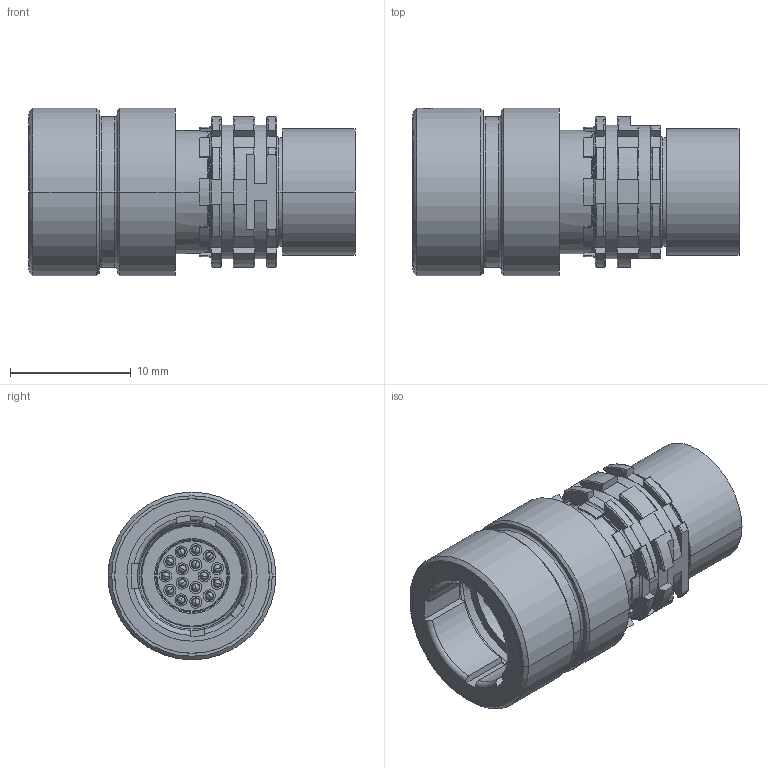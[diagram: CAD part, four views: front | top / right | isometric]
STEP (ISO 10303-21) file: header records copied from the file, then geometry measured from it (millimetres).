
FILE_DESCRIPTION((''),'2;1');
FILE_NAME('00050266_K11Y','2014-01-16T',('SUnterbluemhuber'),(''),'PRO/ENGINEER BY PARAMETRIC TECHNOLOGY CORPORATION, 2013050','PRO/ENGINEER BY PARAMETRIC TECHNOLOGY CORPORATION, 2013050','');
FILE_SCHEMA(('AUTOMOTIVE_DESIGN { 1 0 10303 214 1 1 1 1 }'));
Length unit declared in the file: millimetre
Products named in the file (1): 00050266_K11Y
Bounding box: 27.01 x 13.9 x 13.9 mm (x, y, z)
Volume: 2133 mm3; surface area: 3009 mm2
Topology: 2 solids, 2 shells, 737 faces, 1870 edges, 1162 vertices
Faces by surface type: cylinder 271, plane 218, torus 121, cone 82, sphere 45
Entity records: 35944 total; most frequent: CARTESIAN_POINT 12969, DIRECTION 3723, ORIENTED_EDGE 3652, EDGE_CURVE 1826, AXIS2_PLACEMENT_3D 1506, VERTEX_POINT 1162, EDGE_LOOP 824, CIRCLE 769
